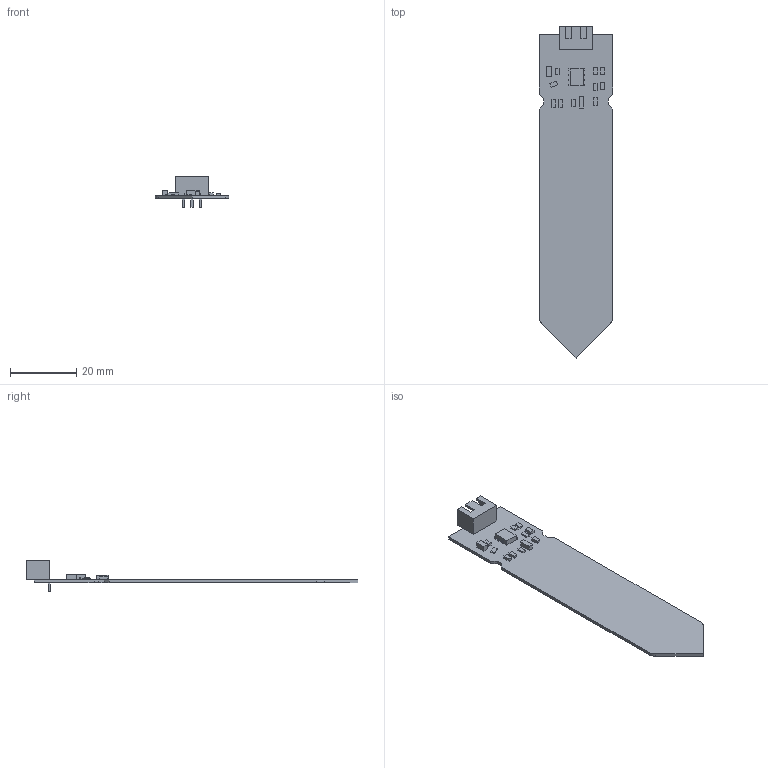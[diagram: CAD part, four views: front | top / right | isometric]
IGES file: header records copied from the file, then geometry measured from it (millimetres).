
Start section: SolidWorks IGES file using analytic representation for surfaces
Global section: file name: D:\Chris\Seafile\Documents\3D Printing\Soil Moisture Sensor\Capacative Soil Moisture Sensor v1.2.IGS; native system: SolidWorks 2020; preprocessor: SolidWorks 2020; author: Chris; date: 201221.110426; units: millimetre
Bounding box: 22.23 x 100 x 9.2 mm (x, y, z)
Surface area: 4982.5 mm2 (no closed solid volume)
Topology: 0 solids, 0 shells, 179 faces, 774 edges, 774 vertices
Faces by surface type: bspline 177, revolution 2
